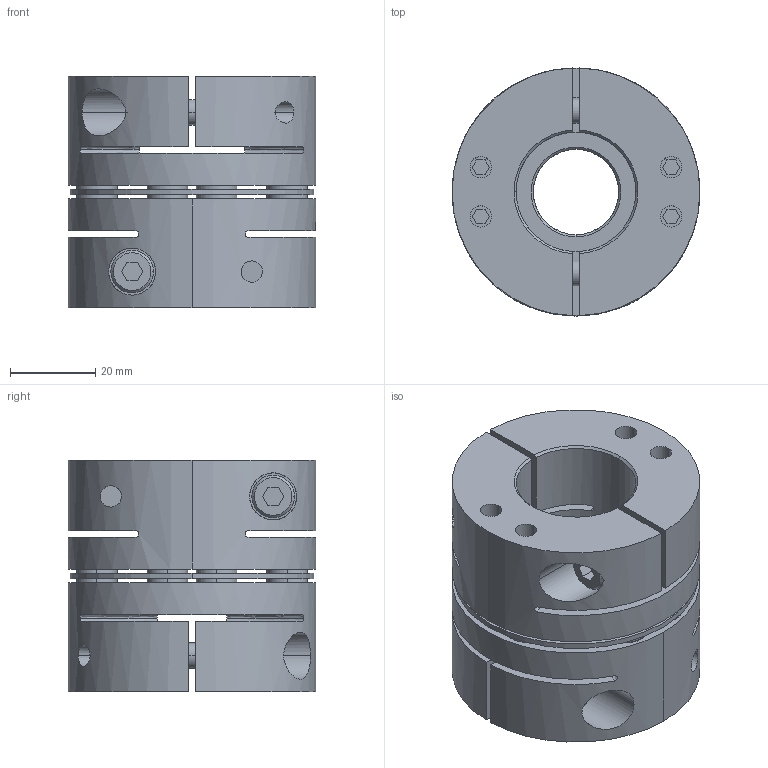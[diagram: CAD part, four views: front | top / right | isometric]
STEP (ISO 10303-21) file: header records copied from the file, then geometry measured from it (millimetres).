
FILE_DESCRIPTION((''),'2;1');
FILE_NAME('TAS-58C-20×28.stp','2022-11-14T22:22:19',(''),(''),'AutoCAD STEP 2000i','AutoCAD 2000i',', , ');
FILE_SCHEMA(('CONFIG_CONTROL_DESIGN'));
Length unit declared in the file: millimetre
Products named in the file (6): TAS-58C-12×22; 忣兜1; TA58C-22; CAP-M6×20; TA58C-12-2; TA58C-12
Assembly tree (7 placements, depth 3):
  TAS-58C-12×22
    忣兜1
    TA58C-22
      CAP-M6×20
    TA58C-12-2
      CAP-M6×20
    TA58C-12
      CAP-M6×20
Bounding box: 58 x 58 x 54.25 mm (x, y, z)
Volume: 98703.2 mm3; surface area: 41110.3 mm2
Topology: 1 solids, 1 shells, 360 faces, 894 edges, 628 vertices
Faces by surface type: plane 160, cylinder 148, cone 36, bspline 16
Entity records: 12805 total; most frequent: CARTESIAN_POINT 3832, DIRECTION 1922, ORIENTED_EDGE 1720, EDGE_CURVE 860, AXIS2_PLACEMENT_3D 732, VERTEX_POINT 564, EDGE_LOOP 464, VECTOR 458
